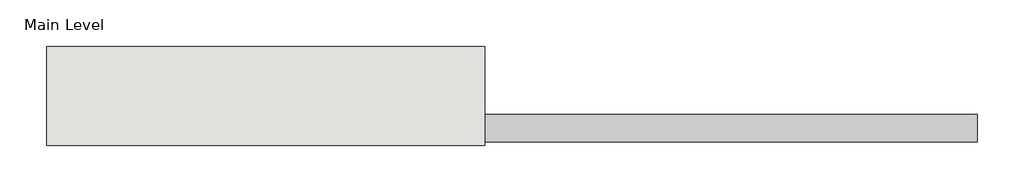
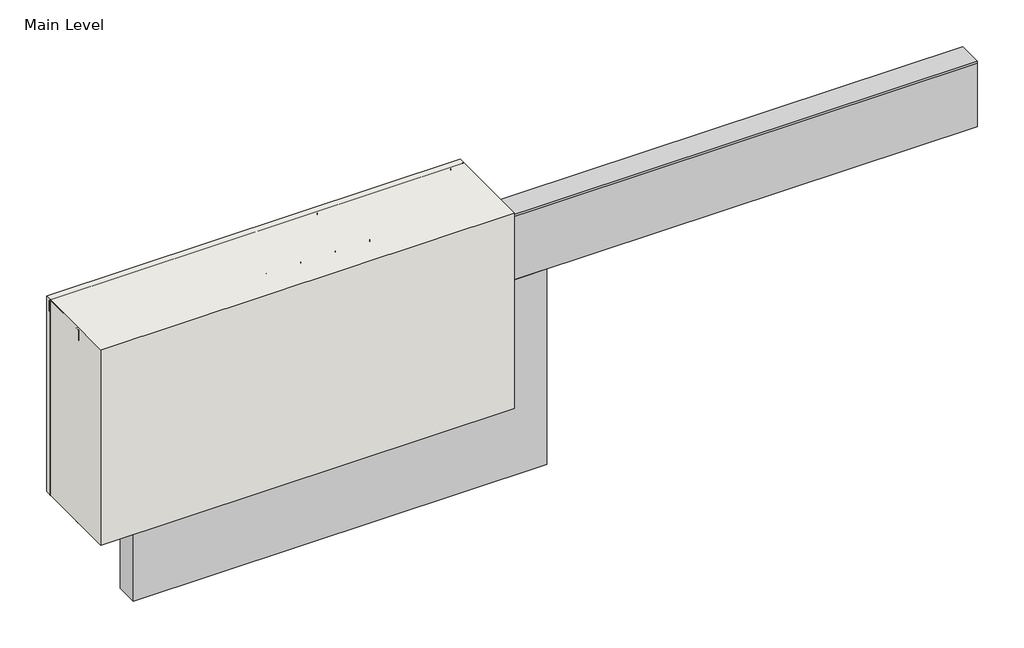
# One storey, incomplete: 15 proxies, 1 wall.
"""IFC4 building model written with IfcOpenShell, lengths in millimetres."""

from ifc_helpers import new_model, si_unit, origin, origin_with_axes, place, context, project, spatial, polyline, outline, extrude, transform, mapped, element, save
from components import generic_models_ff296894, generic_models_2388f69b, proxy_50213ae0, proxy_4c3b85e5, wood_blocking_3523bb6f

model = new_model("IFC4")

# Units and contexts
model_context = context("Model", 3, world=origin())
ifc_project = project(units=[si_unit("LENGTHUNIT", "METRE", prefix="MILLI")], contexts=[model_context])

# Site, building, storey
site = spatial("IfcSite", under=ifc_project)
building = spatial("IfcBuilding", under=site)
storey = spatial("IfcBuildingStorey", under=building, Name="Main Level", Elevation=0.0)

# Proxies
placement = place(None, origin())
generic_models_shape = generic_models_ff296894(model_context)
element("IfcBuildingElementProxy", 1, Name="Durabond Generic Model Insulation Adhesive Flat : Durabond Generic Model Insulation Adhesive Flat", ObjectType="Durabond Generic Model Insulation Adhesive Flat : Durabond Generic Model Insulation Adhesive Flat", at=placement, inside=storey, context=model_context, shape_type="MappedRepresentation", body=[
    mapped(generic_models_shape, transform((26367.7289273, 627.6316297, 0.0), x_axis=(1.0, 0.0, 0.0), y_axis=(0.0, 1.0, 0.0), z_axis=(0.0, 0.0, 1.0))),
])
element("IfcBuildingElementProxy", 2, Name="Durabond Generic Model Insulation Adhesive Flat : Durabond Generic Model Insulation Adhesive Flat", ObjectType="Durabond Generic Model Insulation Adhesive Flat : Durabond Generic Model Insulation Adhesive Flat", at=placement, inside=storey, context=model_context, shape_type="MappedRepresentation", body=[
    mapped(generic_models_shape, transform((26469.3289273, 627.6316297, 0.0), x_axis=(1.0, 0.0, 0.0), y_axis=(0.0, 1.0, 0.0), z_axis=(0.0, 0.0, 1.0))),
])
element("IfcBuildingElementProxy", 3, Name="Durabond Generic Model Insulation Adhesive Flat : Durabond Generic Model Insulation Adhesive Flat", ObjectType="Durabond Generic Model Insulation Adhesive Flat : Durabond Generic Model Insulation Adhesive Flat", at=placement, inside=storey, context=model_context, shape_type="MappedRepresentation", body=[
    mapped(generic_models_shape, transform((26570.9289273, 627.6316297, 0.0), x_axis=(1.0, 0.0, 0.0), y_axis=(0.0, 1.0, 0.0), z_axis=(0.0, 0.0, 1.0))),
])
element("IfcBuildingElementProxy", 4, Name="Durabond Generic Model Insulation Adhesive Flat : Durabond Generic Model Insulation Adhesive Flat", ObjectType="Durabond Generic Model Insulation Adhesive Flat : Durabond Generic Model Insulation Adhesive Flat", at=placement, inside=storey, context=model_context, shape_type="MappedRepresentation", body=[
    mapped(generic_models_shape, transform((26672.5289273, 627.6316297, 0.0), x_axis=(1.0, 0.0, 0.0), y_axis=(0.0, 1.0, 0.0), z_axis=(0.0, 0.0, 1.0))),
])
element("IfcBuildingElementProxy", 5, Name="Durabond Generic Model Insulation Adhesive Flat : Durabond Generic Model Insulation Adhesive Flat", ObjectType="Durabond Generic Model Insulation Adhesive Flat : Durabond Generic Model Insulation Adhesive Flat", at=placement, inside=storey, context=model_context, shape_type="MappedRepresentation", body=[
    mapped(generic_models_shape, transform((26774.1289273, 627.6316297, 0.0), x_axis=(1.0, 0.0, 0.0), y_axis=(0.0, 1.0, 0.0), z_axis=(0.0, 0.0, 1.0))),
])
element("IfcBuildingElementProxy", 6, Name="Durabond Generic Model Insulation Adhesive Flat : Durabond Generic Model Insulation Adhesive Flat", ObjectType="Durabond Generic Model Insulation Adhesive Flat : Durabond Generic Model Insulation Adhesive Flat", at=placement, inside=storey, context=model_context, shape_type="MappedRepresentation", body=[
    mapped(generic_models_shape, transform((26875.7289273, 627.6316297, 0.0), x_axis=(1.0, 0.0, 0.0), y_axis=(0.0, 1.0, 0.0), z_axis=(0.0, 0.0, 1.0))),
])
element("IfcBuildingElementProxy", 7, Name="Durabond Generic Model Insulation Adhesive Flat : Durabond Generic Model Insulation Adhesive Flat", ObjectType="Durabond Generic Model Insulation Adhesive Flat : Durabond Generic Model Insulation Adhesive Flat", at=placement, inside=storey, context=model_context, shape_type="MappedRepresentation", body=[
    mapped(generic_models_shape, transform((26977.3289273, 627.6316297, 0.0), x_axis=(1.0, 0.0, 0.0), y_axis=(0.0, 1.0, 0.0), z_axis=(0.0, 0.0, 1.0))),
])
element("IfcBuildingElementProxy", 8, Name="Durabond Generic Model Insulation Adhesive Flat : Durabond Generic Model Insulation Adhesive Flat", ObjectType="Durabond Generic Model Insulation Adhesive Flat : Durabond Generic Model Insulation Adhesive Flat", at=placement, inside=storey, context=model_context, shape_type="MappedRepresentation", body=[
    mapped(generic_models_shape, transform((27078.9289273, 627.6316297, 0.0), x_axis=(1.0, 0.0, 0.0), y_axis=(0.0, 1.0, 0.0), z_axis=(0.0, 0.0, 1.0))),
])
element("IfcBuildingElementProxy", 9, Name="Durabond Generic Model Insulation Adhesive Flat : Durabond Generic Model Insulation Adhesive Flat", ObjectType="Durabond Generic Model Insulation Adhesive Flat : Durabond Generic Model Insulation Adhesive Flat", at=placement, inside=storey, context=model_context, shape_type="MappedRepresentation", body=[
    mapped(generic_models_shape, transform((27180.5289273, 627.6316297, 0.0), x_axis=(1.0, 0.0, 0.0), y_axis=(0.0, 1.0, 0.0), z_axis=(0.0, 0.0, 1.0))),
])
element("IfcBuildingElementProxy", 10, Name="Durabond Generic Model Insulation Adhesive Flat : Durabond Generic Model Insulation Adhesive Flat", ObjectType="Durabond Generic Model Insulation Adhesive Flat : Durabond Generic Model Insulation Adhesive Flat", at=placement, inside=storey, context=model_context, shape_type="MappedRepresentation", body=[
    mapped(generic_models_shape, transform((27282.1289273, 627.6316297, 0.0), x_axis=(1.0, 0.0, 0.0), y_axis=(0.0, 1.0, 0.0), z_axis=(0.0, 0.0, 1.0))),
])
element("IfcBuildingElementProxy", 11, Name="Durabond Generic Model Insulation Adhesive Flat : Durabond Generic Model Insulation Adhesive Flat", ObjectType="Durabond Generic Model Insulation Adhesive Flat : Durabond Generic Model Insulation Adhesive Flat", at=placement, inside=storey, context=model_context, shape_type="MappedRepresentation", body=[
    mapped(generic_models_shape, transform((27383.7289273, 627.6316297, 0.0), x_axis=(1.0, 0.0, 0.0), y_axis=(0.0, 1.0, 0.0), z_axis=(0.0, 0.0, 1.0))),
])
generic_models_2_shape = generic_models_2388f69b(model_context)
element("IfcBuildingElementProxy", 12, Name="CRAi Generic Model Metal Stud Array : CRAi Generic Model Metal Stud Array", ObjectType="CRAi Generic Model Metal Stud Array : CRAi Generic Model Metal Stud Array", at=placement, inside=storey, context=model_context, shape_type="MappedRepresentation", body=[
    mapped(generic_models_2_shape, transform((26824.9289273, 726.0566297, 0.0), x_axis=(-1.0, 0.0, 0.0), y_axis=(0.0, -1.0, 0.0), z_axis=(0.0, 0.0, 1.0))),
])
proxy_shape = proxy_50213ae0(model_context)
element("IfcBuildingElementProxy", 13, Name="Durabond Generic Model Quantum Select 5-0 Insulation Board : 3\"", ObjectType="Durabond Generic Model Quantum Select 5-0 Insulation Board : 3\"", at=placement, inside=storey, context=model_context, shape_type="MappedRepresentation", body=[
    mapped(proxy_shape, transform((26926.5289273, 624.4566297, 88.9), x_axis=(1.0, 0.0, 0.0), y_axis=(0.0, 0.0, 1.0), z_axis=(0.0, -1.0, 0.0))),
])
proxy_2_shape = proxy_4c3b85e5(model_context)
element("IfcBuildingElementProxy", 14, Name="Durabond Generic Model Quantum Select 5-0 Boundary Board : 3\"", ObjectType="Durabond Generic Model Quantum Select 5-0 Boundary Board : 3\"", at=placement, inside=storey, context=model_context, shape_type="MappedRepresentation", body=[
    mapped(proxy_2_shape, transform((27586.9289273, 624.4566297, 495.3), x_axis=(-1.0, 0.0, 0.0), y_axis=(0.0, 0.0, -1.0), z_axis=(0.0, -1.0, 0.0))),
])
wood_blocking_shape = wood_blocking_3523bb6f(model_context)
element("IfcBuildingElementProxy", 15, Name="CRAi Generic Model Line Based Metal Framing Track : Wood Blocking", ObjectType="CRAi Generic Model Line Based Metal Framing Track : Wood Blocking", at=placement, inside=storey, context=model_context, shape_type="MappedRepresentation", body=[
    mapped(wood_blocking_shape, transform((26215.3289273, 802.2566297, 609.6), x_axis=(1.0, 0.0, 0.0), y_axis=(0.0, -1.0, 0.0), z_axis=(0.0, 0.0, -1.0))),
])

# Wall
element("IfcWall", 16, ObjectType="189mm (7.5”) EIFS Field Applied on Mtl. Stud Layer - 50mm Grooved Insulation Board Metal Stud Wall", at=placement, inside=storey, context=model_context, shape_type="SweptSolid", body=[
    extrude(outline(polyline([(27434.5289273, 538.7316297), (26215.3289273, 538.7316297), (26215.3289273, 814.9566297), (27434.5289273, 814.9566297), (27434.5289273, 538.7316297)])), origin_with_axes(), (0.0, 0.0, 1.0), 609.6),
])

save(model, "model.ifc")
